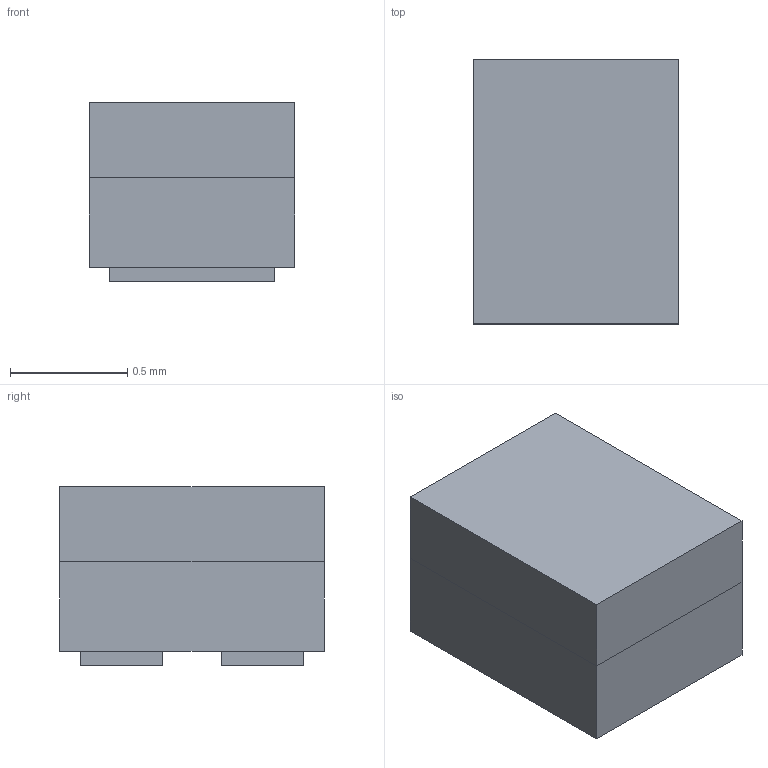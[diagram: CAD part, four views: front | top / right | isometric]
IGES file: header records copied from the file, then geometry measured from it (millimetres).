
Start section: SolidWorks IGES file using analytic representation for surfaces
Global section: file name: D:\AlvinChang\桌面\1108 3D\1108.IGS,1; native system: 5HSolidWorks 2018; preprocessor: SolidWorks 2018; author: Alvinchang; date: 221213.135413; units: millimetre
Bounding box: 0.88 x 1.12 x 0.76 mm (x, y, z)
Surface area: 5.5 mm2 (no closed solid volume)
Topology: 0 solids, 0 shells, 22 faces, 97 edges, 97 vertices
Faces by surface type: bspline 21, revolution 1
